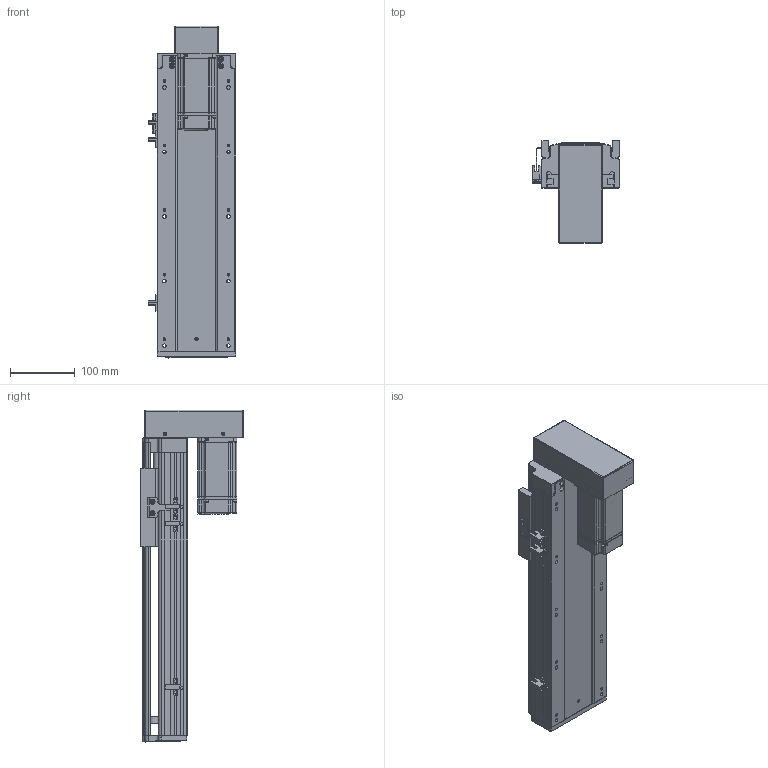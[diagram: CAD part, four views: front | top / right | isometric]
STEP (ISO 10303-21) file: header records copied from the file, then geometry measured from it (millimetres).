
FILE_DESCRIPTION (( 'STEP AP203' ), '1' );
FILE_NAME ('RY120-L2020-300-BK.SLDASM_250.step', '2021-03-12T06:57:15', ( '盈信电脑' ), ( '东莞市道滘镇水果街19号' ), 'SwSTEP 2.0', 'SolidWorks 2012', '' );
FILE_SCHEMA (( 'CONFIG_CONTROL_DESIGN' ));
Products named in the file (15): RY120-400W萇儂傷-BK; RY120-L2020-300-BK.SLDASM_250; RY120下折折电机安装板; 侂狟400W侜督萇儂; RY120狟殏萇儂欶; 15; RY120转拆电端丝杆支撑座(20丝杆，7002轴承); RY120外置感应片(140共用）; 滅袉蝶18-24; 覜茼ん672; 滅袉蝶18-10; RY120臏賑輸(20蹟譫); RY120綴裔啣; RY120-300-BK蛌殏倰第奻裔啣_250; RY120-300-BK蛌殏倰第菁釱_250
Assembly tree (17 placements, depth 4):
  RY120-L2020-300-BK.SLDASM_250
    RY120-300-BK蛌殏倰第菁釱_250
    RY120-300-BK蛌殏倰第奻裔啣_250
    RY120臏賑輸(20蹟譫)
    RY120綴裔啣
    覜茼ん672  x3
    滅袉蝶18-10
    滅袉蝶18-24  x2
    RY120外置感应片(140共用）
    RY120转拆电端丝杆支撑座(20丝杆，7002轴承)
    RY120-400W萇儂傷-BK
      侂狟400W侜督萇儂
        15
      RY120狟殏萇儂欶
      RY120下折折电机安装板
Bounding box: 135.7 x 159.5 x 514 mm (x, y, z)
Volume: 1865412.2 mm3; surface area: 646095.8 mm2
Topology: 16 solids, 16 shells, 2284 faces, 6251 edges, 4016 vertices
Faces by surface type: plane 1196, cylinder 804, cone 179, bspline 105
Entity records: 75051 total; most frequent: CARTESIAN_POINT 20771, ORIENTED_EDGE 11270, DIRECTION 10447, EDGE_CURVE 5635, VERTEX_POINT 3684, LINE 3589, VECTOR 3589, AXIS2_PLACEMENT_3D 3429
